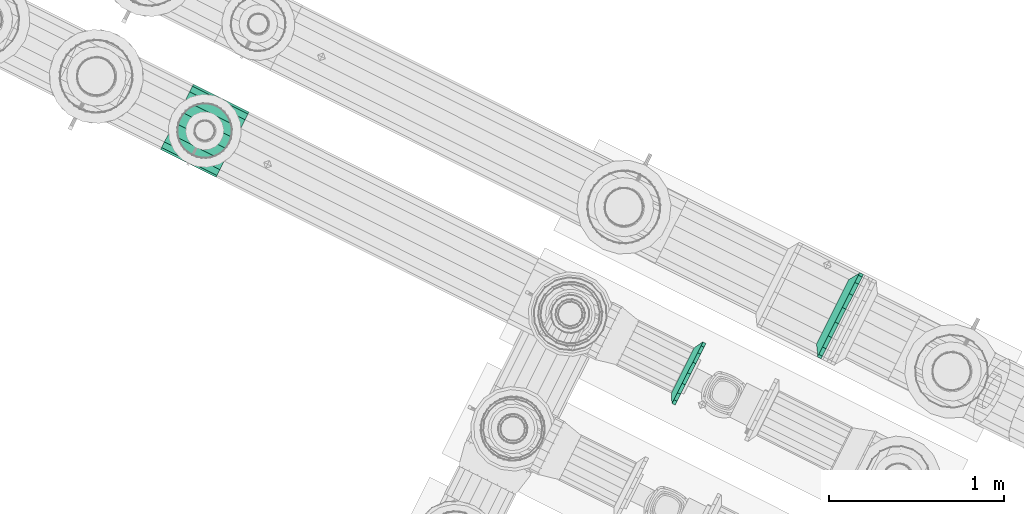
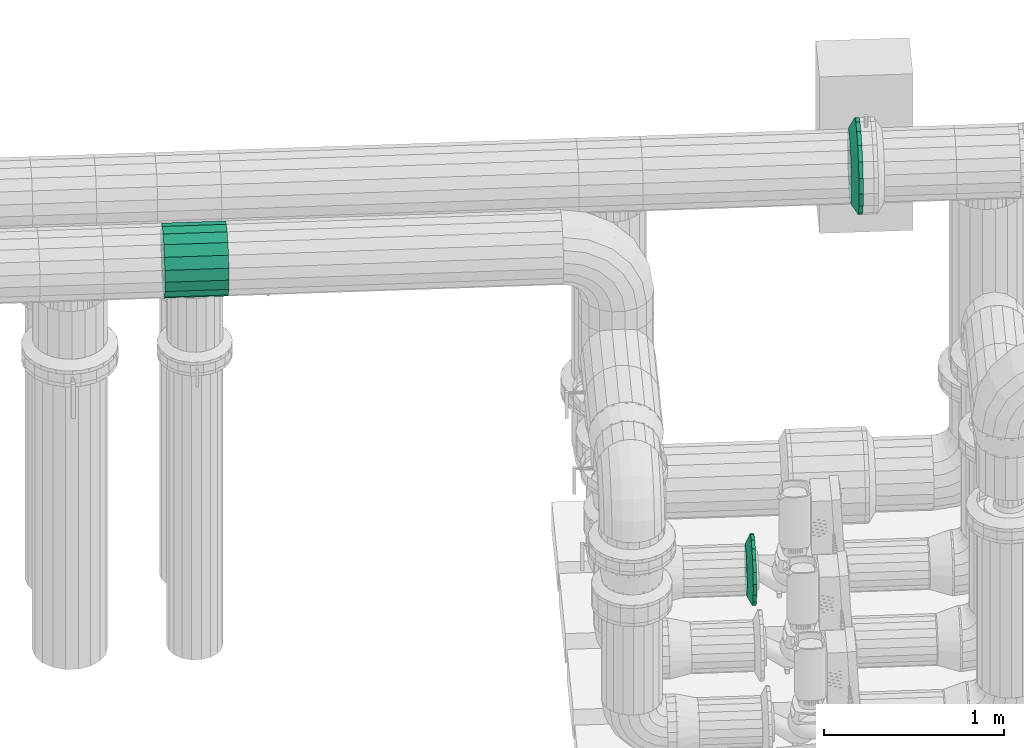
# One storey, part 120 of 152: 3 flow fittings.
"""IFC2X3 building model written with IfcOpenShell, lengths in metres."""

from ifc_helpers import new_model, si_unit, derived_unit, direction, frame, origin, place, context, subcontext, project, spatial, face_set, surface_model, source, transform, mapped, material, type_object, type_shapes, element, save


model = new_model("IFC2X3")

# Units and contexts
model_context = context("Model", 3, precision=5.2338327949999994e-05, world=origin(), true_north=direction((0.0, 1.0)))
body_context = subcontext(model_context, "Body", "Model", "MODEL_VIEW")
ifc_project = project(units=[si_unit("LENGTHUNIT", "METRE"), si_unit("AREAUNIT", "SQUARE_METRE"), si_unit("VOLUMEUNIT", "CUBIC_METRE"), si_unit("MASSUNIT", "GRAM", prefix="KILO"), si_unit("PLANEANGLEUNIT", "RADIAN"), derived_unit("THERMALTRANSMITTANCEUNIT", [(si_unit("MASSUNIT", "GRAM", prefix="KILO"), 1), (si_unit("THERMODYNAMICTEMPERATUREUNIT", "KELVIN"), -1), (si_unit("TIMEUNIT", "SECOND"), -3)])], contexts=[model_context])

# Site, building, storey
site_placement = place(None, frame((0.0, 0.0, 0.0), z_axis=(0.0, 0.0, 1.0), x_axis=(0.8939966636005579, -0.4480736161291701, 0.0)))
site = spatial("IfcSite", under=ifc_project, at=site_placement, Name="Default", CompositionType="ELEMENT")
building_placement = place(site_placement, origin())
building = spatial("IfcBuilding", under=site, at=building_placement, CompositionType="ELEMENT")
storey_placement = place(building_placement, frame((0.0, 0.0, 2.7499999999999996)))
storey = spatial("IfcBuildingStorey", under=building, at=storey_placement, Name="1. Obergeschoss", CompositionType="ELEMENT", Elevation=2.7499999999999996)

# Flow fittings
ifc_material_1 = material(Name="IfcSurfaceStyle #1741")
distribution_element_type_1 = type_object("IfcDistributionElementType", Name="Flansch 5663:Flansch 5663", material=ifc_material_1)
shared_shape_1 = source(origin(), body_context, "Body", "SurfaceModel", [
    surface_model("IfcFaceBasedSurfaceModel", [(11.024653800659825, 7.8422083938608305, 5.553956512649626), (11.024653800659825, 7.852460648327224, 5.61209993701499), (11.000653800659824, 7.852460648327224, 5.61209993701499), (11.000653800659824, 7.842208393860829, 5.553956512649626), (11.024653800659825, 7.881980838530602, 5.663230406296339), (11.000653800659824, 7.881980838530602, 5.663230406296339), (11.024653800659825, 7.92720839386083, 5.701180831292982), (11.000653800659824, 7.92720839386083, 5.701180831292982), (11.024653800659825, 7.982688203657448, 5.721373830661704), (11.000653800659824, 7.982688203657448, 5.721373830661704), (11.024653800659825, 8.041728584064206, 5.721373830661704), (11.000653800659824, 8.041728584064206, 5.721373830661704), (11.024653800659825, 8.097208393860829, 5.701180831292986), (11.000653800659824, 8.097208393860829, 5.701180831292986), (11.024653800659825, 8.142435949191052, 5.6632304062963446), (11.000653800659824, 8.142435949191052, 5.6632304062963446), (11.024653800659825, 8.171956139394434, 5.612099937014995), (11.000653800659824, 8.171956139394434, 5.612099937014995), (11.024653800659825, 8.18220839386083, 5.5539565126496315), (11.000653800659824, 8.18220839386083, 5.5539565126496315), (11.024653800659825, 8.171956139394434, 5.495813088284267), (11.000653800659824, 8.171956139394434, 5.495813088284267), (11.024653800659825, 8.142435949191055, 5.44468261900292), (11.000653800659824, 8.142435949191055, 5.44468261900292), (11.024653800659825, 8.097208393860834, 5.406732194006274), (11.000653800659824, 8.097208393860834, 5.406732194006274), (11.024653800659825, 8.041728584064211, 5.386539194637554), (11.000653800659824, 8.041728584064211, 5.386539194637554), (11.024653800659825, 7.982688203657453, 5.386539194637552), (11.000653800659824, 7.982688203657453, 5.386539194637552), (11.024653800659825, 7.927208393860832, 5.406732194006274), (11.000653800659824, 7.927208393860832, 5.406732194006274), (11.024653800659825, 7.881980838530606, 5.444682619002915), (11.000653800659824, 7.881980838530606, 5.444682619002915), (11.024653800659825, 7.8524606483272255, 5.495813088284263), (11.000653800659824, 7.8524606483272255, 5.495813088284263), (11.000653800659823, 8.01220839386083, 5.553956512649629), (11.000653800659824, 8.012208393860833, 5.436456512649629), (11.000653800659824, 7.972021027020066, 5.443542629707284), (10.962653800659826, 7.974740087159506, 5.451013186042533), (10.962653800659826, 8.012208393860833, 5.444406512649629), (11.000653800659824, 7.936680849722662, 5.463946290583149), (10.962653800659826, 7.941791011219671, 5.470036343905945), (11.000653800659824, 7.910450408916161, 5.495206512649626), (10.962653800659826, 7.917335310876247, 5.49918151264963), (11.000653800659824, 7.896493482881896, 5.533552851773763), (10.962653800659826, 7.904322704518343, 5.534933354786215), (11.000653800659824, 7.896493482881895, 5.574360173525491), (10.962653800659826, 7.904322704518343, 5.572979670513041), (11.000653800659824, 7.9104504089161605, 5.612706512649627), (10.962653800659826, 7.917335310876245, 5.608731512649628), (11.000653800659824, 7.936680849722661, 5.643966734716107), (10.962653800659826, 7.941791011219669, 5.637876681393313), (11.000653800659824, 7.972021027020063, 5.6643703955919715), (10.962653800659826, 7.974740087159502, 5.656899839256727), (11.000653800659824, 8.012208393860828, 5.671456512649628), (10.962653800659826, 8.01220839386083, 5.6635065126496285), (11.000653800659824, 8.052395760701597, 5.664370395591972), (10.962653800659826, 8.04967670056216, 5.656899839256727), (11.000653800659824, 8.087735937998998, 5.64396673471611), (10.962653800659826, 8.08262577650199, 5.637876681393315), (11.000653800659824, 8.1139663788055, 5.6127065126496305), (10.962653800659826, 8.107081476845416, 5.608731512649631), (11.000653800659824, 8.127923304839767, 5.574360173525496), (10.962653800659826, 8.120094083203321, 5.572979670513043), (11.000653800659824, 8.127923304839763, 5.5335528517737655), (10.962653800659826, 8.120094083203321, 5.534933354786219), (11.000653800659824, 8.113966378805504, 5.49520651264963), (10.962653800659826, 8.107081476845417, 5.499181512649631), (11.000653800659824, 8.087735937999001, 5.46394629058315), (10.962653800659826, 8.082625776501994, 5.470036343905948), (11.000653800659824, 8.0523957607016, 5.443542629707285), (10.962653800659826, 8.049676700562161, 5.451013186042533), (11.024653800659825, 7.742208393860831, 5.553956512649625), (11.024653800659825, 7.758491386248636, 5.646301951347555), (11.000653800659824, 7.758491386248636, 5.646301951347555), (11.000653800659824, 7.742208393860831, 5.553956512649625), (11.024653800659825, 7.805376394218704, 5.72750916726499), (11.000653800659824, 7.805376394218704, 5.72750916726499), (11.024653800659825, 7.877208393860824, 5.787783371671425), (11.000653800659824, 7.877208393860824, 5.787783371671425), (11.024653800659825, 7.9653233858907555, 5.819854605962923), (11.000653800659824, 7.9653233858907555, 5.819854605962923), (11.024653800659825, 8.059093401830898, 5.8198546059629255), (11.000653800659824, 8.059093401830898, 5.8198546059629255), (11.024653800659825, 8.147208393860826, 5.787783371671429), (11.000653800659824, 8.147208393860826, 5.787783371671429), (11.024653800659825, 8.21904039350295, 5.727509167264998), (11.000653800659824, 8.21904039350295, 5.727509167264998), (11.024653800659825, 8.265925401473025, 5.6463019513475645), (11.000653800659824, 8.265925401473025, 5.6463019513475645), (11.024653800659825, 8.28220839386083, 5.553956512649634), (11.000653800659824, 8.28220839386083, 5.553956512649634), (11.024653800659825, 8.265925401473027, 5.461611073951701), (11.000653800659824, 8.265925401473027, 5.461611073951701), (11.024653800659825, 8.219040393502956, 5.380403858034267), (11.000653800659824, 8.219040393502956, 5.380403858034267), (11.024653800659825, 8.147208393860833, 5.3201296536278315), (11.000653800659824, 8.147208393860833, 5.3201296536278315), (11.024653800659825, 8.059093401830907, 5.288058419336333), (11.000653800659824, 8.059093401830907, 5.288058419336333), (11.024653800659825, 7.965323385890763, 5.288058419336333), (11.000653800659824, 7.965323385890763, 5.288058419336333), (11.024653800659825, 7.877208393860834, 5.320129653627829), (11.000653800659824, 7.877208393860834, 5.320129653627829), (11.024653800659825, 7.805376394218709, 5.380403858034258), (11.000653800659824, 7.805376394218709, 5.380403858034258), (11.024653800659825, 7.758491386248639, 5.461611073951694), (11.000653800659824, 7.758491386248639, 5.461611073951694), (11.000653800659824, 8.012208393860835, 5.283956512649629), (11.000653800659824, 7.9198629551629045, 5.300239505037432), (10.962653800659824, 7.940538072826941, 5.357043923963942), (10.962653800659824, 8.012208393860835, 5.34440651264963), (11.000653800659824, 7.838655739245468, 5.347124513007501), (10.962653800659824, 7.877512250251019, 5.393431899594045), (11.000653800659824, 7.778381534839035, 5.4189565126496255), (10.962653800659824, 7.830732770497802, 5.449181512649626), (11.000653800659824, 7.746310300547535, 5.507071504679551), (10.962653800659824, 7.805841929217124, 5.517568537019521), (11.000653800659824, 7.746310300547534, 5.600841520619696), (10.962653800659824, 7.805841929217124, 5.59034448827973), (11.000653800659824, 7.778381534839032, 5.688956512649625), (10.962653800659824, 7.830732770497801, 5.658731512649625), (11.000653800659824, 7.838655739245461, 5.760788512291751), (10.962653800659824, 7.877512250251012, 5.714481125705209), (11.000653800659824, 7.919862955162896, 5.807673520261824), (10.962653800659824, 7.940538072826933, 5.750869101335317), (11.000653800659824, 8.012208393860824, 5.823956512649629), (10.962653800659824, 8.012208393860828, 5.763506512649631), (11.000653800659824, 8.104553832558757, 5.807673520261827), (10.962653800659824, 8.08387871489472, 5.750869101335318), (11.000653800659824, 8.185761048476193, 5.760788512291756), (10.962653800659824, 8.146904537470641, 5.714481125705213), (11.000653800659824, 8.246035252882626, 5.688956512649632), (10.962653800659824, 8.193684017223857, 5.658731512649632), (11.000653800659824, 8.278106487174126, 5.6008415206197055), (10.962653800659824, 8.218574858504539, 5.590344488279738), (11.000653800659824, 8.278106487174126, 5.507071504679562), (10.962653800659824, 8.218574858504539, 5.517568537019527), (11.000653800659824, 8.24603525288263, 5.418956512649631), (10.962653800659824, 8.19368401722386, 5.449181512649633), (11.000653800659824, 8.1857610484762, 5.347124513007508), (10.962653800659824, 8.146904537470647, 5.39343189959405), (11.000653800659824, 8.104553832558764, 5.300239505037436), (10.962653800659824, 8.083878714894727, 5.3570439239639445)], [face_set([[[0, 1, 2, 3]], [[1, 4, 5, 2]], [[4, 6, 7, 5]], [[6, 8, 9, 7]], [[8, 10, 11, 9]], [[10, 12, 13, 11]], [[12, 14, 15, 13]], [[14, 16, 17, 15]], [[16, 18, 19, 17]], [[18, 20, 21, 19]], [[20, 22, 23, 21]], [[22, 24, 25, 23]], [[24, 26, 27, 25]], [[26, 28, 29, 27]], [[28, 30, 31, 29]], [[30, 32, 33, 31]], [[32, 34, 35, 33]], [[34, 0, 3, 35]], [[36, 35, 3]], [[36, 33, 35]], [[36, 31, 33]], [[36, 29, 31]], [[36, 27, 29]], [[36, 25, 27]], [[36, 23, 25]], [[36, 21, 23]], [[36, 19, 21]], [[36, 17, 19]], [[36, 15, 17]], [[36, 13, 15]], [[36, 11, 13]], [[36, 9, 11]], [[36, 7, 9]], [[36, 5, 7]], [[36, 2, 5]], [[36, 3, 2]], [[37, 38, 39, 40]], [[38, 41, 42, 39]], [[41, 43, 44, 42]], [[43, 45, 46, 44]], [[45, 47, 48, 46]], [[47, 49, 50, 48]], [[49, 51, 52, 50]], [[51, 53, 54, 52]], [[53, 55, 56, 54]], [[55, 57, 58, 56]], [[57, 59, 60, 58]], [[59, 61, 62, 60]], [[61, 63, 64, 62]], [[63, 65, 66, 64]], [[65, 67, 68, 66]], [[67, 69, 70, 68]], [[69, 71, 72, 70]], [[71, 37, 40, 72]], [[73, 74, 75, 76]], [[74, 77, 78, 75]], [[77, 79, 80, 78]], [[79, 81, 82, 80]], [[81, 83, 84, 82]], [[83, 85, 86, 84]], [[85, 87, 88, 86]], [[87, 89, 90, 88]], [[89, 91, 92, 90]], [[91, 93, 94, 92]], [[93, 95, 96, 94]], [[95, 97, 98, 96]], [[97, 99, 100, 98]], [[99, 101, 102, 100]], [[101, 103, 104, 102]], [[103, 105, 106, 104]], [[105, 107, 108, 106]], [[107, 73, 76, 108]], [[109, 110, 111, 112]], [[110, 113, 114, 111]], [[113, 115, 116, 114]], [[115, 117, 118, 116]], [[117, 119, 120, 118]], [[119, 121, 122, 120]], [[121, 123, 124, 122]], [[123, 125, 126, 124]], [[125, 127, 128, 126]], [[127, 129, 130, 128]], [[129, 131, 132, 130]], [[131, 133, 134, 132]], [[133, 135, 136, 134]], [[135, 137, 138, 136]], [[137, 139, 140, 138]], [[139, 141, 142, 140]], [[141, 143, 144, 142]], [[143, 109, 112, 144]]])]),
])
type_shapes(distribution_element_type_1, [shared_shape_1])
flow_fitting_1_placement = place(storey_placement, frame((0.0, 0.0, -2.7499999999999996)))
element("IfcFlowFitting", 1, at=flow_fitting_1_placement, inside=storey, type_object=distribution_element_type_1, material=ifc_material_1, Name="Flansch", ObjectType="Flansch", context=body_context, shape_type="MappedRepresentation", body=[
    mapped(shared_shape_1, transform((0.0, 0.0, 0.0), scale=1.0)),
])
ifc_material_2 = material(Name="IfcSurfaceStyle #9317")
distribution_element_type_2 = type_object("IfcDistributionElementType", Name="Flansch 221609:Flansch 221609", material=ifc_material_2)
shared_shape_2 = source(origin(), body_context, "Body", "SurfaceModel", [
    surface_model("IfcFaceBasedSurfaceModel", [(10.395925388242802, 7.3272083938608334, 3.225154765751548), (10.395925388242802, 7.293006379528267, 3.2311855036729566), (10.375925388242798, 7.293006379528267, 3.2311855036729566), (10.375925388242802, 7.3272083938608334, 3.225154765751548), (10.395925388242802, 7.262929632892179, 3.2485503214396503), (10.375925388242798, 7.262929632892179, 3.2485503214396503), (10.395925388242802, 7.2406058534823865, 3.275154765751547), (10.375925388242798, 7.2406058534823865, 3.275154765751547), (10.395925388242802, 7.228727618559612, 3.3077899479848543), (10.375925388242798, 7.228727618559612, 3.3077899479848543), (10.395925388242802, 7.228727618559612, 3.3425195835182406), (10.375925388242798, 7.228727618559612, 3.3425195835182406), (10.395925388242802, 7.240605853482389, 3.3751547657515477), (10.375925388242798, 7.240605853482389, 3.3751547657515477), (10.395925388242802, 7.262929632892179, 3.401759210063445), (10.375925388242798, 7.262929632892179, 3.401759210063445), (10.395925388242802, 7.293006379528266, 3.4191240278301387), (10.375925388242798, 7.293006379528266, 3.4191240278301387), (10.395925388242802, 7.327208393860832, 3.4251547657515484), (10.375925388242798, 7.327208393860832, 3.4251547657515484), (10.395925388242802, 7.361410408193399, 3.4191240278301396), (10.375925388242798, 7.361410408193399, 3.4191240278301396), (10.395925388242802, 7.391487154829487, 3.401759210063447), (10.375925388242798, 7.391487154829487, 3.401759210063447), (10.395925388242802, 7.413810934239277, 3.3751547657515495), (10.375925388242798, 7.413810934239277, 3.3751547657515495), (10.395925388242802, 7.425689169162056, 3.342519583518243), (10.375925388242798, 7.425689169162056, 3.342519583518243), (10.395925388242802, 7.425689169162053, 3.3077899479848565), (10.375925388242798, 7.425689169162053, 3.3077899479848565), (10.395925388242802, 7.413810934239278, 3.2751547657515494), (10.375925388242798, 7.413810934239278, 3.2751547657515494), (10.395925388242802, 7.391487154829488, 3.248550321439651), (10.375925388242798, 7.391487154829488, 3.248550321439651), (10.395925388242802, 7.3614104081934, 3.2311855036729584), (10.375925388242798, 7.3614104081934, 3.2311855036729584), (10.375925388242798, 7.327208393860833, 3.325154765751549), (10.375925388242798, 7.379708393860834, 3.325154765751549), (10.375925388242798, 7.376542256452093, 3.307198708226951), (10.345925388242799, 7.368977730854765, 3.309951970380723), (10.345925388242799, 7.371658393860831, 3.325154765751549), (10.375925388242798, 7.367425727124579, 3.291408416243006), (10.345925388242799, 7.361259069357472, 3.296582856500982), (10.375925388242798, 7.353458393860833, 3.279688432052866), (10.345925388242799, 7.349433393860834, 3.286659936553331), (10.375925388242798, 7.3363249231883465, 3.273452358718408), (10.345925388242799, 7.334927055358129, 3.2813800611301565), (10.375925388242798, 7.31809186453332, 3.2734523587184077), (10.345925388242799, 7.319489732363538, 3.281380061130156), (10.375925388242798, 7.300958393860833, 3.279688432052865), (10.345925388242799, 7.304983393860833, 3.2866599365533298), (10.375925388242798, 7.286991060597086, 3.291408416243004), (10.345925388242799, 7.293157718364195, 3.296582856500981), (10.375925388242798, 7.277874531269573, 3.307198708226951), (10.345925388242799, 7.2854390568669, 3.3099519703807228), (10.375925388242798, 7.274708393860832, 3.3251547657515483), (10.345925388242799, 7.282758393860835, 3.325154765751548), (10.375925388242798, 7.277874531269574, 3.343110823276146), (10.345925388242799, 7.2854390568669, 3.3403575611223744), (10.375925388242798, 7.286991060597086, 3.3589011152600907), (10.345925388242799, 7.293157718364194, 3.353726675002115), (10.375925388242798, 7.300958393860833, 3.37062109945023), (10.345925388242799, 7.304983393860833, 3.3636495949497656), (10.375925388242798, 7.318091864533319, 3.37685717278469), (10.345925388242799, 7.319489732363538, 3.368929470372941), (10.375925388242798, 7.336324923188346, 3.37685717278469), (10.345925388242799, 7.334927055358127, 3.368929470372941), (10.375925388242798, 7.353458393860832, 3.3706210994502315), (10.345925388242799, 7.349433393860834, 3.3636495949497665), (10.375925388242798, 7.36742572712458, 3.3589011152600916), (10.345925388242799, 7.361259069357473, 3.3537266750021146), (10.375925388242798, 7.376542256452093, 3.3431108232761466), (10.345925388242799, 7.368977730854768, 3.340357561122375), (10.395925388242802, 7.327208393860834, 3.125154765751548), (10.395925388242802, 7.258804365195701, 3.1372162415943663), (10.375925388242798, 7.258804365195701, 3.1372162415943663), (10.375925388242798, 7.3272083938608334, 3.125154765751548), (10.395925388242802, 7.198650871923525, 3.1719458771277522), (10.375925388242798, 7.198650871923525, 3.1719458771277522), (10.395925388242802, 7.154003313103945, 3.225154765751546), (10.375925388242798, 7.154003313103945, 3.225154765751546), (10.395925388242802, 7.130246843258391, 3.290425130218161), (10.375925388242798, 7.130246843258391, 3.290425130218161), (10.395925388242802, 7.13024684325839, 3.359884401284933), (10.375925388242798, 7.13024684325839, 3.359884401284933), (10.395925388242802, 7.154003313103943, 3.4251547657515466), (10.375925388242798, 7.154003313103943, 3.4251547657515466), (10.395925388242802, 7.198650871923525, 3.4783636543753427), (10.375925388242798, 7.198650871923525, 3.4783636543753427), (10.395925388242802, 7.2588043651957, 3.513093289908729), (10.375925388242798, 7.2588043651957, 3.513093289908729), (10.395925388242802, 7.327208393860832, 3.525154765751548), (10.375925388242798, 7.327208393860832, 3.525154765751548), (10.395925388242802, 7.395612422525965, 3.5130932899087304), (10.375925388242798, 7.395612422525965, 3.5130932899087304), (10.395925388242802, 7.455765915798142, 3.478363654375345), (10.375925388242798, 7.455765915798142, 3.478363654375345), (10.395925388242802, 7.500413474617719, 3.4251547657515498), (10.375925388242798, 7.500413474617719, 3.4251547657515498), (10.395925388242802, 7.5241699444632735, 3.3598844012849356), (10.375925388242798, 7.5241699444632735, 3.3598844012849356), (10.395925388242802, 7.524169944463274, 3.2904251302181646), (10.375925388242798, 7.524169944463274, 3.2904251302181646), (10.395925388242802, 7.500413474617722, 3.2251547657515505), (10.375925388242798, 7.500413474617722, 3.2251547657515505), (10.395925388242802, 7.455765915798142, 3.1719458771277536), (10.375925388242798, 7.455765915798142, 3.1719458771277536), (10.395925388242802, 7.395612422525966, 3.137216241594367), (10.375925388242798, 7.395612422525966, 3.137216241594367), (10.375925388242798, 7.527208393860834, 3.3251547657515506), (10.375925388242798, 7.515146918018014, 3.256750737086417), (10.345925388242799, 7.4629469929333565, 3.2757499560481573), (10.345925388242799, 7.471658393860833, 3.3251547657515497), (10.375925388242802, 7.48041728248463, 3.1965972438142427), (10.3459253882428, 7.43786351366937, 3.2323040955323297), (10.375925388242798, 7.427208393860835, 3.1519496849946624), (10.345925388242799, 7.399433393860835, 3.2000573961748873), (10.375925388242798, 7.361938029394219, 3.1281932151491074), (10.345925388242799, 7.352291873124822, 3.182899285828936), (10.375925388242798, 7.292478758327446, 3.128193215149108), (10.345925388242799, 7.302124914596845, 3.182899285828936), (10.375925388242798, 7.227208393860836, 3.151949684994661), (10.345925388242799, 7.254983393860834, 3.2000573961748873), (10.375925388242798, 7.173999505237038, 3.196597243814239), (10.345925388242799, 7.2165532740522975, 3.2323040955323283), (10.375925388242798, 7.139269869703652, 3.256750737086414), (10.345925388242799, 7.191469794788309, 3.275749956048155), (10.375925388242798, 7.127208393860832, 3.3251547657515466), (10.345925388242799, 7.182758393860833, 3.3251547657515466), (10.375925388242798, 7.139269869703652, 3.39355879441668), (10.345925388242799, 7.19146979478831, 3.37455957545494), (10.375925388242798, 7.173999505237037, 3.4537122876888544), (10.345925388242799, 7.2165532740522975, 3.418005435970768), (10.375925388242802, 7.227208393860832, 3.4983598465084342), (10.3459253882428, 7.254983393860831, 3.4502521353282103), (10.375925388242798, 7.292478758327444, 3.522116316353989), (10.345925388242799, 7.3021249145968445, 3.4674102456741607), (10.375925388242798, 7.361938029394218, 3.52211631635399), (10.345925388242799, 7.35229187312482, 3.4674102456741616), (10.375925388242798, 7.427208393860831, 3.498359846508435), (10.345925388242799, 7.399433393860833, 3.4502521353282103), (10.375925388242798, 7.480417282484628, 3.4537122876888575), (10.345925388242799, 7.4378635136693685, 3.41800543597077), (10.375925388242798, 7.515146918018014, 3.393558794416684), (10.345925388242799, 7.4629469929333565, 3.3745595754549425)], [face_set([[[0, 1, 2, 3]], [[1, 4, 5, 2]], [[4, 6, 7, 5]], [[6, 8, 9, 7]], [[8, 10, 11, 9]], [[10, 12, 13, 11]], [[12, 14, 15, 13]], [[14, 16, 17, 15]], [[16, 18, 19, 17]], [[18, 20, 21, 19]], [[20, 22, 23, 21]], [[22, 24, 25, 23]], [[24, 26, 27, 25]], [[26, 28, 29, 27]], [[28, 30, 31, 29]], [[30, 32, 33, 31]], [[32, 34, 35, 33]], [[34, 0, 3, 35]], [[36, 35, 3]], [[36, 33, 35]], [[36, 31, 33]], [[36, 29, 31]], [[36, 27, 29]], [[36, 25, 27]], [[36, 23, 25]], [[36, 21, 23]], [[36, 19, 21]], [[36, 17, 19]], [[36, 15, 17]], [[36, 13, 15]], [[36, 11, 13]], [[36, 9, 11]], [[36, 7, 9]], [[36, 5, 7]], [[36, 2, 5]], [[36, 3, 2]], [[37, 38, 39, 40]], [[38, 41, 42, 39]], [[41, 43, 44, 42]], [[43, 45, 46, 44]], [[45, 47, 48, 46]], [[47, 49, 50, 48]], [[49, 51, 52, 50]], [[51, 53, 54, 52]], [[53, 55, 56, 54]], [[55, 57, 58, 56]], [[57, 59, 60, 58]], [[59, 61, 62, 60]], [[61, 63, 64, 62]], [[63, 65, 66, 64]], [[65, 67, 68, 66]], [[67, 69, 70, 68]], [[69, 71, 72, 70]], [[71, 37, 40, 72]], [[73, 74, 75, 76]], [[74, 77, 78, 75]], [[77, 79, 80, 78]], [[79, 81, 82, 80]], [[81, 83, 84, 82]], [[83, 85, 86, 84]], [[85, 87, 88, 86]], [[87, 89, 90, 88]], [[89, 91, 92, 90]], [[91, 93, 94, 92]], [[93, 95, 96, 94]], [[95, 97, 98, 96]], [[97, 99, 100, 98]], [[99, 101, 102, 100]], [[101, 103, 104, 102]], [[103, 105, 106, 104]], [[105, 107, 108, 106]], [[107, 73, 76, 108]], [[109, 110, 111, 112]], [[110, 113, 114, 111]], [[113, 115, 116, 114]], [[115, 117, 118, 116]], [[117, 119, 120, 118]], [[119, 121, 122, 120]], [[121, 123, 124, 122]], [[123, 125, 126, 124]], [[125, 127, 128, 126]], [[127, 129, 130, 128]], [[129, 131, 132, 130]], [[131, 133, 134, 132]], [[133, 135, 136, 134]], [[135, 137, 138, 136]], [[137, 139, 140, 138]], [[139, 141, 142, 140]], [[141, 143, 144, 142]], [[143, 109, 112, 144]]])]),
])
type_shapes(distribution_element_type_2, [shared_shape_2])
flow_fitting_2_placement = place(storey_placement, frame((0.0, 0.0, -2.7499999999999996)))
element("IfcFlowFitting", 2, at=flow_fitting_2_placement, inside=storey, type_object=distribution_element_type_2, material=ifc_material_2, Name="Flansch", ObjectType="Flansch", context=body_context, shape_type="MappedRepresentation", body=[
    mapped(shared_shape_2, transform((0.0, 0.0, 0.0), scale=1.0)),
])
distribution_element_type_3 = type_object("IfcDistributionElementType", Name="Abzweigstück 225554:Abzweigstück 225554", material=ifc_material_2)
shared_shape_3 = source(origin(), body_context, "Body", "SurfaceModel", [
    surface_model("IfcFaceBasedSurfaceModel", [(7.460618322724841, 7.217658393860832, 5.553028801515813), (7.460618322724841, 7.224265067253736, 5.59049710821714), (7.104618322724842, 7.224265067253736, 5.59049710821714), (7.104618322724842, 7.217658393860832, 5.553028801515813), (7.460618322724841, 7.243288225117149, 5.623446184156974), (7.104618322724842, 7.243288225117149, 5.623446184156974), (7.460618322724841, 7.272433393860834, 5.6479018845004), (7.104618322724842, 7.272433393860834, 5.6479018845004), (7.460618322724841, 7.308185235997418, 5.660914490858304), (7.104618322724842, 7.308185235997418, 5.660914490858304), (7.460618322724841, 7.346231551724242, 5.660914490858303), (7.104618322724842, 7.346231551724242, 5.660914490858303), (7.460618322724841, 7.381983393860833, 5.647901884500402), (7.104618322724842, 7.381983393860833, 5.647901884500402), (7.460618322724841, 7.411128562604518, 5.623446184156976), (7.104618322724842, 7.411128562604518, 5.623446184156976), (7.460618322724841, 7.430151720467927, 5.590497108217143), (7.104618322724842, 7.430151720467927, 5.590497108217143), (7.460618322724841, 7.436758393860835, 5.553028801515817), (7.104618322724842, 7.436758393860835, 5.553028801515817), (7.460618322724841, 7.4301517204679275, 5.51556049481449), (7.104618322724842, 7.4301517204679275, 5.51556049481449), (7.460618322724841, 7.411128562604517, 5.482611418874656), (7.104618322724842, 7.411128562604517, 5.482611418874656), (7.460618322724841, 7.381983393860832, 5.458155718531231), (7.104618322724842, 7.381983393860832, 5.458155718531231), (7.460618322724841, 7.3462315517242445, 5.445143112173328), (7.104618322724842, 7.3462315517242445, 5.445143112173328), (7.460618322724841, 7.308185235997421, 5.445143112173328), (7.104618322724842, 7.308185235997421, 5.445143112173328), (7.460618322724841, 7.272433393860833, 5.45815571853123), (7.104618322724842, 7.272433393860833, 5.45815571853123), (7.460618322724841, 7.243288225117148, 5.4826114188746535), (7.104618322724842, 7.243288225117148, 5.4826114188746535), (7.460618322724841, 7.224265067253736, 5.515560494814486), (7.104618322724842, 7.224265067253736, 5.515560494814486), (7.460618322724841, 7.117658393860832, 5.553028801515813), (7.460618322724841, 7.130295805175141, 5.624699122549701), (7.104618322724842, 7.130295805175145, 5.624699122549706), (7.104618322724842, 7.117658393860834, 5.553028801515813), (7.460618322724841, 7.166683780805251, 5.687724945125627), (7.104618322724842, 7.166683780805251, 5.687724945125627), (7.460618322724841, 7.222433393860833, 5.734504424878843), (7.104618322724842, 7.222433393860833, 5.734504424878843), (7.460618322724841, 7.290820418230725, 5.759395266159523), (7.104618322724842, 7.290820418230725, 5.759395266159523), (7.460618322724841, 7.363596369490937, 5.759395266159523), (7.104618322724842, 7.363596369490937, 5.759395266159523), (7.460618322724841, 7.43198339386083, 5.734504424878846), (7.104618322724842, 7.43198339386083, 5.734504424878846), (7.460618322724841, 7.487733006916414, 5.687724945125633), (7.104618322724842, 7.487733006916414, 5.687724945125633), (7.460618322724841, 7.52412098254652, 5.6246991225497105), (7.104618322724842, 7.52412098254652, 5.6246991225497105), (7.460618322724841, 7.536758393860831, 5.553028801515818), (7.104618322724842, 7.536758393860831, 5.553028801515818), (7.460618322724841, 7.5241209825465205, 5.481358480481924), (7.104618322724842, 7.5241209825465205, 5.481358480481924), (7.460618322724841, 7.487733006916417, 5.418332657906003), (7.104618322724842, 7.487733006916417, 5.418332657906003), (7.460618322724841, 7.431983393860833, 5.371553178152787), (7.104618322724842, 7.431983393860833, 5.371553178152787), (7.460618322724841, 7.36359636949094, 5.3466623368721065), (7.104618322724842, 7.36359636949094, 5.3466623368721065), (7.460618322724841, 7.29082041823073, 5.3466623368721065), (7.104618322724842, 7.29082041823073, 5.3466623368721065), (7.460618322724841, 7.222433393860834, 5.3715531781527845), (7.104618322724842, 7.222433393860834, 5.3715531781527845), (7.460618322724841, 7.166683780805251, 5.418332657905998), (7.104618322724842, 7.166683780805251, 5.418332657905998), (7.460618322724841, 7.130295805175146, 5.481358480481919), (7.104618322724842, 7.130295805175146, 5.481358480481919), (7.225468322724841, 7.3272083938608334, 5.443478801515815), (7.228914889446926, 7.346754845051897, 5.445236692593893), (7.228914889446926, 7.346754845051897, 5.397028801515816), (7.225468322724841, 7.327208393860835, 5.397028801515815), (7.238838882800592, 7.363943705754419, 5.449821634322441), (7.238838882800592, 7.363943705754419, 5.397028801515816), (7.254043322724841, 7.376701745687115, 5.455296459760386), (7.254043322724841, 7.376701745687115, 5.397028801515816), (7.272694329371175, 7.383490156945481, 5.459041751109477), (7.272694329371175, 7.3834901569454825, 5.397028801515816), (7.292542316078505, 7.3834901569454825, 5.459041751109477), (7.292542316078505, 7.3834901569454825, 5.397028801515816), (7.31119332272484, 7.376701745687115, 5.455296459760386), (7.311193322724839, 7.376701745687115, 5.397028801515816), (7.326397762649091, 7.363943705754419, 5.449821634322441), (7.326397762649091, 7.363943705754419, 5.397028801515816), (7.336321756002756, 7.346754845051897, 5.445236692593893), (7.336321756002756, 7.346754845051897, 5.397028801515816), (7.339768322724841, 7.3272083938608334, 5.443478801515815), (7.33976832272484, 7.327208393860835, 5.397028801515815), (7.336321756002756, 7.307661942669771, 5.445236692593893), (7.336321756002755, 7.307661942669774, 5.397028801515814), (7.326397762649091, 7.290473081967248, 5.449821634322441), (7.326397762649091, 7.290473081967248, 5.397028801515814), (7.31119332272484, 7.277715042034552, 5.455296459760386), (7.31119332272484, 7.277715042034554, 5.397028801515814), (7.292542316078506, 7.270926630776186, 5.459041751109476), (7.292542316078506, 7.270926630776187, 5.397028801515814), (7.272694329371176, 7.270926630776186, 5.459041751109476), (7.272694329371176, 7.270926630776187, 5.397028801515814), (7.254043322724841, 7.277715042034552, 5.455296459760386), (7.254043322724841, 7.277715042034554, 5.397028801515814), (7.238838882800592, 7.290473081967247, 5.449821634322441), (7.238838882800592, 7.290473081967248, 5.397028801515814), (7.228914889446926, 7.307661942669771, 5.445236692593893), (7.228914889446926, 7.307661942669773, 5.397028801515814)], [face_set([[[0, 1, 2, 3]], [[1, 4, 5, 2]], [[4, 6, 7, 5]], [[6, 8, 9, 7]], [[8, 10, 11, 9]], [[10, 12, 13, 11]], [[12, 14, 15, 13]], [[14, 16, 17, 15]], [[16, 18, 19, 17]], [[18, 20, 21, 19]], [[20, 22, 23, 21]], [[22, 24, 25, 23]], [[24, 26, 27, 25]], [[26, 28, 29, 27]], [[28, 30, 31, 29]], [[30, 32, 33, 31]], [[32, 34, 35, 33]], [[34, 0, 3, 35]], [[36, 37, 38, 39]], [[37, 40, 41, 38]], [[40, 42, 43, 41]], [[42, 44, 45, 43]], [[44, 46, 47, 45]], [[46, 48, 49, 47]], [[48, 50, 51, 49]], [[50, 52, 53, 51]], [[52, 54, 55, 53]], [[54, 56, 57, 55]], [[56, 58, 59, 57]], [[58, 60, 61, 59]], [[60, 62, 63, 61]], [[62, 64, 65, 63]], [[64, 66, 67, 65]], [[66, 68, 69, 67]], [[68, 70, 71, 69]], [[70, 36, 39, 71]], [[72, 73, 74, 75]], [[73, 76, 77, 74]], [[76, 78, 79, 77]], [[78, 80, 81, 79]], [[80, 82, 83, 81]], [[82, 84, 85, 83]], [[84, 86, 87, 85]], [[86, 88, 89, 87]], [[88, 90, 91, 89]], [[90, 92, 93, 91]], [[92, 94, 95, 93]], [[94, 96, 97, 95]], [[96, 98, 99, 97]], [[98, 100, 101, 99]], [[100, 102, 103, 101]], [[102, 104, 105, 103]], [[104, 106, 107, 105]], [[106, 72, 75, 107]]])]),
])
type_shapes(distribution_element_type_3, [shared_shape_3])
flow_fitting_3_placement = place(storey_placement, frame((0.0, 0.0, -2.7499999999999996)))
element("IfcFlowFitting", 3, at=flow_fitting_3_placement, inside=storey, type_object=distribution_element_type_3, material=ifc_material_2, Name="Abzweigstück", ObjectType="Abzweigstück", context=body_context, shape_type="MappedRepresentation", body=[
    mapped(shared_shape_3, transform((0.0, 0.0, 0.0), scale=1.0)),
])

save(model, "model.ifc")
